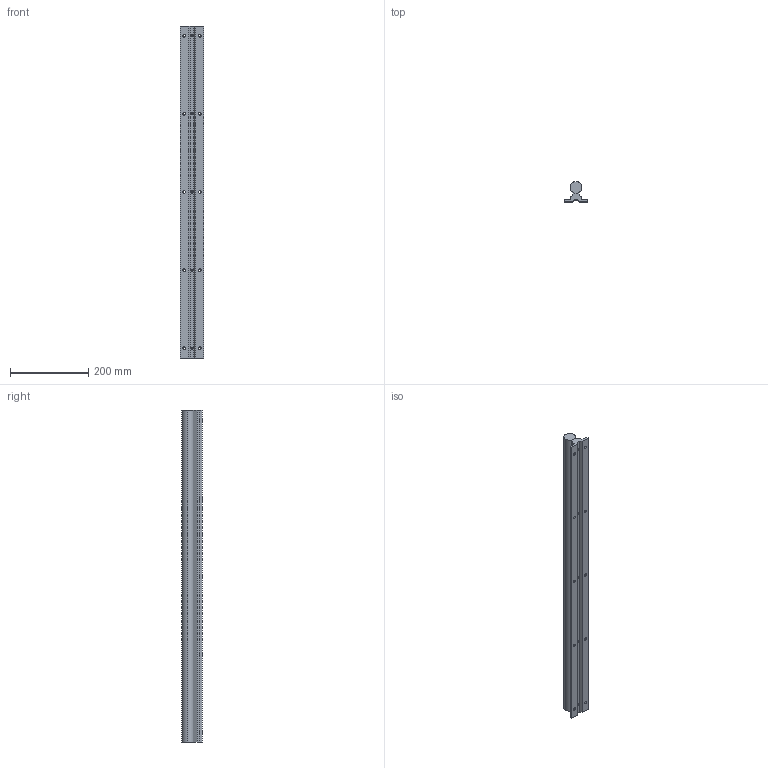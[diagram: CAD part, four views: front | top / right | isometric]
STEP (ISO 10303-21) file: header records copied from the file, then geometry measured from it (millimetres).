
FILE_DESCRIPTION (( 'STEP AP214' ), '1' );
FILE_NAME ('SBR30-850.STEP', '2025-09-17T14:41:51', ( '' ), ( '' ), 'SwSTEP 2.0', 'SolidWorks 2019', '' );
FILE_SCHEMA (( 'AUTOMOTIVE_DESIGN' ));
Length unit declared in the file: millimetre
Products named in the file (1): SBR30-850
Bounding box: 60 x 52 x 850 mm (x, y, z)
Volume: 1150793.4 mm3; surface area: 224162.3 mm2
Topology: 2 solids, 2 shells, 80 faces, 218 edges, 142 vertices
Faces by surface type: cylinder 54, plane 26
Entity records: 2953 total; most frequent: CARTESIAN_POINT 791, DIRECTION 448, ORIENTED_EDGE 436, EDGE_CURVE 218, AXIS2_PLACEMENT_3D 169, VERTEX_POINT 142, LINE 110, VECTOR 110
